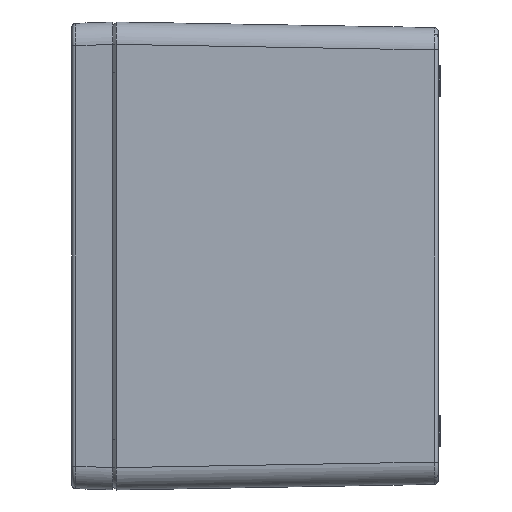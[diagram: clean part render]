
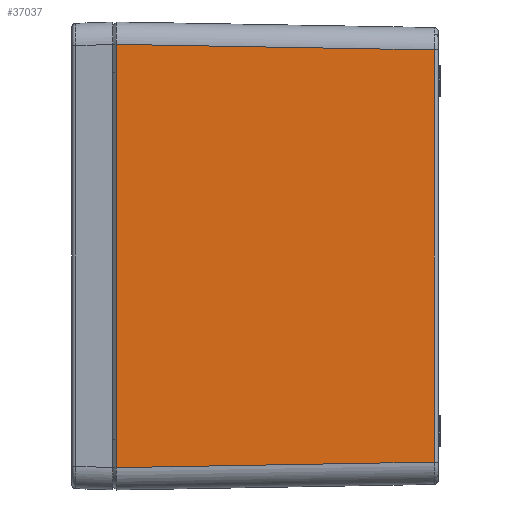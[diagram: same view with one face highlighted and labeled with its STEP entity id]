
A CAD part, left-side view. The second image highlights one B-rep face of the part: STEP entity #37037.
In plain terms, the highlighted planar face has unit normal (-1, -0.018, 0) as drawn and (1, 0, 0.017) by its records, which use the part's own axes.
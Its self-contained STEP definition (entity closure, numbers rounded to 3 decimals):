
#578 = LINE ( 'NONE', #3427, #38397 ) ;
#1252 = PLANE ( 'NONE',  #18015 ) ;
#3206 = EDGE_CURVE ( 'NONE', #57763, #17862, #578, .T. ) ;
#3427 = CARTESIAN_POINT ( 'NONE',  ( 200.003, -104.005, -0.192 ) ) ;
#6217 = DIRECTION ( 'NONE',  ( 0.017, 0., -1. ) ) ;
#11376 = LINE ( 'NONE', #48918, #16043 ) ;
#11513 = DIRECTION ( 'NONE',  ( 0., 1., 0. ) ) ;
#12718 = CARTESIAN_POINT ( 'NONE',  ( 200., 104.002, 0. ) ) ;
#15654 = VERTEX_POINT ( 'NONE', #51971 ) ;
#16043 = VECTOR ( 'NONE', #38996, 1000. ) ;
#17862 = VERTEX_POINT ( 'NONE', #60530 ) ;
#18015 = AXIS2_PLACEMENT_3D ( 'NONE', #26503, #35736, #6217 ) ;
#18968 = EDGE_CURVE ( 'NONE', #22915, #15654, #57538, .T. ) ;
#22915 = VERTEX_POINT ( 'NONE', #12718 ) ;
#22932 = CARTESIAN_POINT ( 'NONE',  ( 200., -104.002, 0. ) ) ;
#23715 = EDGE_CURVE ( 'NONE', #17862, #15654, #41740, .T. ) ;
#26503 = CARTESIAN_POINT ( 'NONE',  ( 200., -115., 0. ) ) ;
#27105 = EDGE_CURVE ( 'NONE', #57763, #22915, #11376, .T. ) ;
#31736 = ORIENTED_EDGE ( 'NONE', *, *, #3206, .F. ) ;
#33332 = EDGE_LOOP ( 'NONE', ( #31736, #49130, #46133, #45911 ) ) ;
#34240 = CARTESIAN_POINT ( 'NONE',  ( 200., 104.002, 0. ) ) ;
#35736 = DIRECTION ( 'NONE',  ( 1., 0., 0.017 ) ) ;
#37037 = ADVANCED_FACE ( 'NONE', ( #46323 ), #1252, .T. ) ;
#38397 = VECTOR ( 'NONE', #52396, 1000. ) ;
#38996 = DIRECTION ( 'NONE',  ( 0., 1., 0. ) ) ;
#41740 = LINE ( 'NONE', #45585, #60191 ) ;
#44173 = DIRECTION ( 'NONE',  ( -0.017, -0.017, 1. ) ) ;
#45585 = CARTESIAN_POINT ( 'NONE',  ( 197.273, 0., 156.235 ) ) ;
#45911 = ORIENTED_EDGE ( 'NONE', *, *, #23715, .F. ) ;
#46133 = ORIENTED_EDGE ( 'NONE', *, *, #18968, .T. ) ;
#46323 = FACE_OUTER_BOUND ( 'NONE', #33332, .T. ) ;
#47554 = VECTOR ( 'NONE', #44173, 1000. ) ;
#48918 = CARTESIAN_POINT ( 'NONE',  ( 200., -115., 0. ) ) ;
#49130 = ORIENTED_EDGE ( 'NONE', *, *, #27105, .T. ) ;
#51971 = CARTESIAN_POINT ( 'NONE',  ( 197.273, 101.275, 156.235 ) ) ;
#52396 = DIRECTION ( 'NONE',  ( -0.017, 0.017, 1. ) ) ;
#57538 = LINE ( 'NONE', #34240, #47554 ) ;
#57763 = VERTEX_POINT ( 'NONE', #22932 ) ;
#60191 = VECTOR ( 'NONE', #11513, 1000. ) ;
#60530 = CARTESIAN_POINT ( 'NONE',  ( 197.273, -101.275, 156.235 ) ) ;
